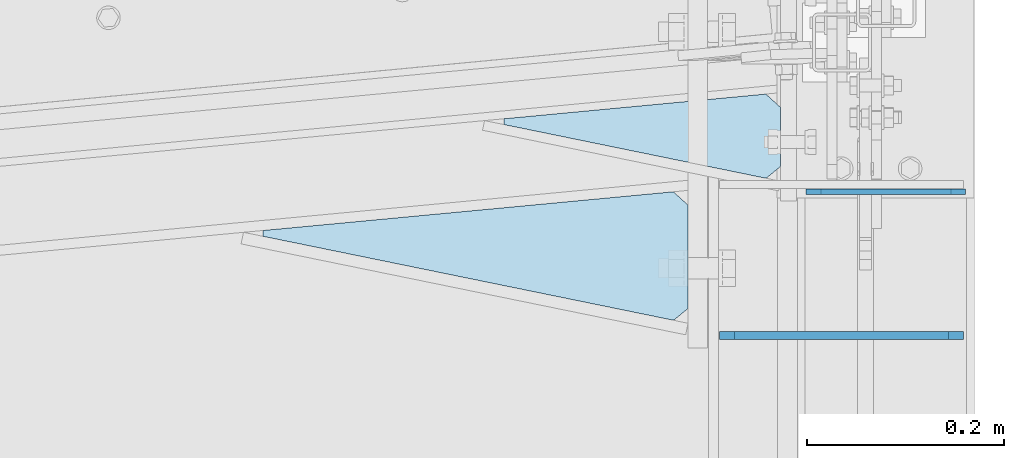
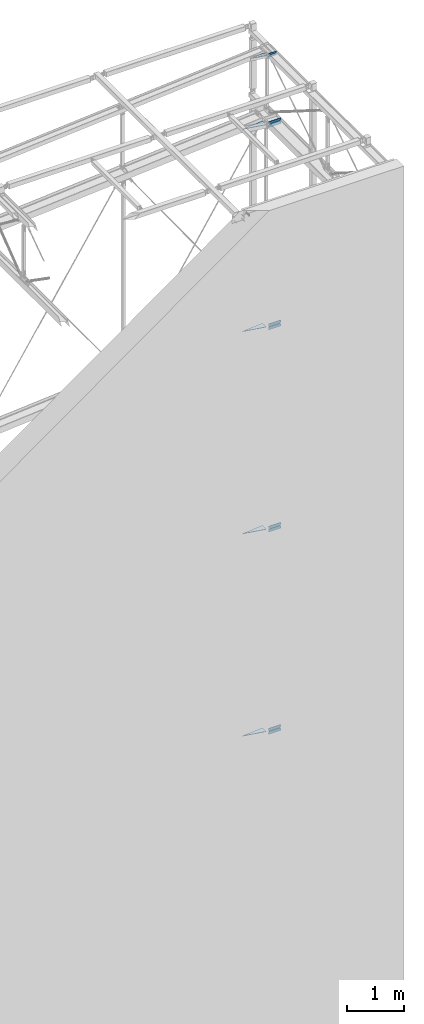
# One storey, part 194 of 271: 15 plates, 10 elements without a shape of their own.
"""IFC2X3 building model written with IfcOpenShell, lengths in millimetres."""

from ifc_helpers import new_model, si_unit, frame, origin_with_axes, place, context, subcontext, project, spatial, polyline, outline, extrude, material, type_object, element, aggregate, save


model = new_model("IFC2X3")

# Units and contexts
model_context = context("Model", 3, precision=1e-05, world=origin_with_axes())
body_context = subcontext(model_context, "Body", "Model", "MODEL_VIEW")
ifc_project = project(units=[si_unit("LENGTHUNIT", "METRE", prefix="MILLI"), si_unit("AREAUNIT", "SQUARE_METRE"), si_unit("VOLUMEUNIT", "CUBIC_METRE"), si_unit("MASSUNIT", "GRAM", prefix="KILO"), si_unit("TIMEUNIT", "SECOND"), si_unit("PLANEANGLEUNIT", "RADIAN"), si_unit("SOLIDANGLEUNIT", "STERADIAN"), si_unit("THERMODYNAMICTEMPERATUREUNIT", "DEGREE_CELSIUS"), si_unit("LUMINOUSINTENSITYUNIT", "LUMEN")], contexts=[model_context])

# Site, building, storey
site_placement = place(None, origin_with_axes())
site = spatial("IfcSite", under=ifc_project, at=site_placement, Name="Undefined", CompositionType="ELEMENT")
building_placement = place(site_placement, origin_with_axes())
building = spatial("IfcBuilding", under=site, at=building_placement, Name="Undefined", CompositionType="ELEMENT")
storey_placement = place(building_placement, origin_with_axes())
storey = spatial("IfcBuildingStorey", under=building, at=storey_placement, Name="Undefined", CompositionType="ELEMENT", Elevation=0.0)

# Assembly, plates
assembly_1_placement = place(storey_placement, origin_with_axes())
assembly_1 = element("IfcElementAssembly", 1, at=assembly_1_placement, inside=storey, AssemblyPlace="NOTDEFINED", PredefinedType="RIGID_FRAME")
ifc_material = material(Name="STEEL/S355JR")
plate_type_1 = type_object("IfcPlateType", Name="BL8*60", PredefinedType="NOTDEFINED")
plate_1_placement = place(assembly_1_placement, frame((12449.5756869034, 3994.32774429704, 5621.04999995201), z_axis=(0.0, 1.0, 0.0), x_axis=(0.0, 0.0, 1.0)))
plate_1 = element("IfcPlate", 2, at=plate_1_placement, type_object=plate_type_1, material=ifc_material, Name="BLACHA", ObjectType="BL8*60", context=body_context, shape_type="SweptSolid", body=[
    extrude(outline(polyline([(0.0, 0.0), (45.0, 0.0), (60.0, 15.0), (60.0, 232.600006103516), (45.0, 247.600006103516), (0.0, 247.600006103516), (0.0, 0.0)])), frame((0.0, 0.0, -4.0), z_axis=(0.0, 0.0, 1.0), x_axis=(1.0, 0.0, 0.0)), (0.0, 0.0, 1.0), 8.0),
])
plate_2_placement = place(assembly_1_placement, frame((12449.5756869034, 3994.32774429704, 5747.64999985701), z_axis=(0.0, -1.0, 0.0), x_axis=(0.0, 0.0, -1.0)))
plate_2 = element("IfcPlate", 3, at=plate_2_placement, type_object=plate_type_1, material=ifc_material, Name="BLACHA", ObjectType="BL8*60", context=body_context, shape_type="SweptSolid", body=[
    extrude(outline(polyline([(0.0, 0.0), (45.0, 0.0), (60.0, 15.0), (60.0, 232.600006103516), (45.0, 247.600006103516), (0.0, 247.600006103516), (0.0, 0.0)])), frame((0.0, 0.0, -4.0), z_axis=(0.0, 0.0, 1.0), x_axis=(1.0, 0.0, 0.0)), (0.0, 0.0, 1.0), 8.0),
])
aggregate(assembly_1, [plate_1, plate_2])

assembly_2_placement = place(storey_placement, origin_with_axes())
assembly_2 = element("IfcElementAssembly", 4, at=assembly_2_placement, inside=storey, AssemblyPlace="NOTDEFINED", PredefinedType="RIGID_FRAME")
plate_3_placement = place(assembly_2_placement, frame((12449.5756869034, 3994.32774429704, 9941.04999995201), z_axis=(0.0, 1.0, 0.0), x_axis=(0.0, 0.0, 1.0)))
plate_3 = element("IfcPlate", 5, at=plate_3_placement, type_object=plate_type_1, material=ifc_material, Name="BLACHA", ObjectType="BL8*60", context=body_context, shape_type="SweptSolid", body=[
    extrude(outline(polyline([(0.0, 0.0), (45.0, 0.0), (60.0, 15.0), (60.0, 232.600006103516), (45.0, 247.600006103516), (0.0, 247.600006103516), (0.0, 0.0)])), frame((0.0, 0.0, -4.0), z_axis=(0.0, 0.0, 1.0), x_axis=(1.0, 0.0, 0.0)), (0.0, 0.0, 1.0), 8.0),
])
plate_4_placement = place(assembly_2_placement, frame((12449.5756869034, 3994.32774429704, 10067.649999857), z_axis=(0.0, -1.0, 0.0), x_axis=(0.0, 0.0, -1.0)))
plate_4 = element("IfcPlate", 6, at=plate_4_placement, type_object=plate_type_1, material=ifc_material, Name="BLACHA", ObjectType="BL8*60", context=body_context, shape_type="SweptSolid", body=[
    extrude(outline(polyline([(0.0, 0.0), (45.0, 0.0), (60.0, 15.0), (60.0, 232.600006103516), (45.0, 247.600006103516), (0.0, 247.600006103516), (0.0, 0.0)])), frame((0.0, 0.0, -4.0), z_axis=(0.0, 0.0, 1.0), x_axis=(1.0, 0.0, 0.0)), (0.0, 0.0, 1.0), 8.0),
])
aggregate(assembly_2, [plate_3, plate_4])

assembly_3_placement = place(storey_placement, origin_with_axes())
assembly_3 = element("IfcElementAssembly", 7, at=assembly_3_placement, inside=storey, AssemblyPlace="NOTDEFINED", PredefinedType="RIGID_FRAME")
plate_5_placement = place(assembly_3_placement, frame((12449.5756869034, 3994.32774429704, 14261.049999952), z_axis=(0.0, 1.0, 0.0), x_axis=(0.0, 0.0, 1.0)))
plate_5 = element("IfcPlate", 8, at=plate_5_placement, type_object=plate_type_1, material=ifc_material, Name="BLACHA", ObjectType="BL8*60", context=body_context, shape_type="SweptSolid", body=[
    extrude(outline(polyline([(0.0, 0.0), (45.0, 0.0), (60.0, 15.0), (60.0, 232.600006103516), (45.0, 247.600006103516), (0.0, 247.600006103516), (0.0, 0.0)])), frame((0.0, 0.0, -4.0), z_axis=(0.0, 0.0, 1.0), x_axis=(1.0, 0.0, 0.0)), (0.0, 0.0, 1.0), 8.0),
])
plate_6_placement = place(assembly_3_placement, frame((12449.5756869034, 3994.32774429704, 14387.649999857), z_axis=(0.0, -1.0, 0.0), x_axis=(0.0, 0.0, -1.0)))
plate_6 = element("IfcPlate", 9, at=plate_6_placement, type_object=plate_type_1, material=ifc_material, Name="BLACHA", ObjectType="BL8*60", context=body_context, shape_type="SweptSolid", body=[
    extrude(outline(polyline([(0.0, 0.0), (45.0, 0.0), (60.0, 15.0), (60.0, 232.600006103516), (45.0, 247.600006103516), (0.0, 247.600006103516), (0.0, 0.0)])), frame((0.0, 0.0, -4.0), z_axis=(0.0, 0.0, 1.0), x_axis=(1.0, 0.0, 0.0)), (0.0, 0.0, 1.0), 8.0),
])
aggregate(assembly_3, [plate_5, plate_6])

assembly_4_placement = place(storey_placement, origin_with_axes())
assembly_4 = element("IfcElementAssembly", 10, at=assembly_4_placement, inside=storey, AssemblyPlace="NOTDEFINED", PredefinedType="RIGID_FRAME")
plate_7_placement = place(assembly_4_placement, frame((12449.5756869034, 3994.32774429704, 18581.049999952), z_axis=(0.0, 1.0, 0.0), x_axis=(0.0, 0.0, 1.0)))
plate_7 = element("IfcPlate", 11, at=plate_7_placement, type_object=plate_type_1, material=ifc_material, Name="BLACHA", ObjectType="BL8*60", context=body_context, shape_type="SweptSolid", body=[
    extrude(outline(polyline([(0.0, 0.0), (45.0, 0.0), (60.0, 15.0), (60.0, 232.600006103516), (45.0, 247.600006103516), (0.0, 247.600006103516), (0.0, 0.0)])), frame((0.0, 0.0, -4.0), z_axis=(0.0, 0.0, 1.0), x_axis=(1.0, 0.0, 0.0)), (0.0, 0.0, 1.0), 8.0),
])
plate_8_placement = place(assembly_4_placement, frame((12449.5756869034, 3994.32774429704, 18707.649999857), z_axis=(0.0, -1.0, 0.0), x_axis=(0.0, 0.0, -1.0)))
plate_8 = element("IfcPlate", 12, at=plate_8_placement, type_object=plate_type_1, material=ifc_material, Name="BLACHA", ObjectType="BL8*60", context=body_context, shape_type="SweptSolid", body=[
    extrude(outline(polyline([(0.0, 0.0), (45.0, 0.0), (60.0, 15.0), (60.0, 232.600006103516), (45.0, 247.600006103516), (0.0, 247.600006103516), (0.0, 0.0)])), frame((0.0, 0.0, -4.0), z_axis=(0.0, 0.0, 1.0), x_axis=(1.0, 0.0, 0.0)), (0.0, 0.0, 1.0), 8.0),
])
aggregate(assembly_4, [plate_7, plate_8])

assembly_5_placement = place(storey_placement, origin_with_axes())
assembly_5 = element("IfcElementAssembly", 13, at=assembly_5_placement, inside=storey, AssemblyPlace="NOTDEFINED", PredefinedType="RIGID_FRAME")
plate_type_2 = type_object("IfcPlateType", Name="BL6*40", PredefinedType="NOTDEFINED")
plate_9_placement = place(assembly_5_placement, frame((12537.3756870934, 4140.44841139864, 19961.699999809), z_axis=(0.0, 1.0, 0.0), x_axis=(0.0, 0.0, 1.0)))
plate_9 = element("IfcPlate", 14, at=plate_9_placement, type_object=plate_type_2, material=ifc_material, Name="BLACHA", ObjectType="BL6*40", context=body_context, shape_type="SweptSolid", body=[
    extrude(outline(polyline([(0.0, 0.0), (25.0, -1.13686837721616e-13), (40.0, 14.9999999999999), (40.0, 147.0), (25.0, 162.0), (0.0, 162.0), (0.0, 0.0)])), frame((0.0, 0.0, -3.0), z_axis=(0.0, 0.0, 1.0), x_axis=(1.0, 0.0, 0.0)), (0.0, 0.0, 1.0), 6.0),
])
plate_10_placement = place(assembly_5_placement, frame((12537.3756870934, 4140.44841139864, 20047.0), z_axis=(0.0, -1.0, 0.0), x_axis=(0.0, 0.0, -1.0)))
plate_10 = element("IfcPlate", 15, at=plate_10_placement, type_object=plate_type_2, material=ifc_material, Name="BLACHA", ObjectType="BL6*40", context=body_context, shape_type="SweptSolid", body=[
    extrude(outline(polyline([(0.0, 0.0), (25.0, -1.13686837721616e-13), (40.0, 14.9999999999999), (40.0, 147.0), (25.0, 162.0), (0.0, 162.0), (0.0, 0.0)])), frame((0.0, 0.0, -3.0), z_axis=(0.0, 0.0, 1.0), x_axis=(1.0, 0.0, 0.0)), (0.0, 0.0, 1.0), 6.0),
])
aggregate(assembly_5, [plate_9, plate_10])

# Assembly, plate
assembly_6_placement = place(storey_placement, origin_with_axes())
assembly_6 = element("IfcElementAssembly", 16, at=assembly_6_placement, inside=storey, AssemblyPlace="NOTDEFINED", PredefinedType="RIGID_FRAME")
plate_type_3 = type_object("IfcPlateType", Name="BL6*84", PredefinedType="NOTDEFINED")
plate_11_placement = place(assembly_6_placement, frame((12511.3756870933, 4151.13968975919, 20004.3499999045), z_axis=(0.0, 0.0, 1.0), x_axis=(0.0, 1.0, 0.0)))
plate_11 = element("IfcPlate", 17, at=plate_11_placement, type_object=plate_type_3, material=ifc_material, Name="BLACHA", ObjectType="BL6*84", context=body_context, shape_type="SweptSolid", body=[
    extrude(outline(polyline([(3.01110479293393, 14.6946673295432), (15.0, -1.59872115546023e-14), (75.0, -7.27595761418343e-12), (88.5911610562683, 14.9336925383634), (63.5057292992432, 280.839264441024), (57.612470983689, 281.157964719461), (3.01110479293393, 14.6946673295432)])), frame((0.0, 0.0, -3.0), z_axis=(0.0, 0.0, 1.0), x_axis=(1.0, 0.0, 0.0)), (0.0, 0.0, 1.0), 6.0),
])
aggregate(assembly_6, [plate_11])

assembly_7_placement = place(storey_placement, origin_with_axes())
assembly_7 = element("IfcElementAssembly", 18, at=assembly_7_placement, inside=storey, AssemblyPlace="NOTDEFINED", PredefinedType="RIGID_FRAME")
plate_type_4 = type_object("IfcPlateType", Name="BL8*128", PredefinedType="NOTDEFINED")
plate_12_placement = place(assembly_7_placement, frame((12417.3756870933, 4006.87215395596, 5684.34999990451), z_axis=(0.0, 0.0, 1.0), x_axis=(0.0, 1.0, 0.0)))
plate_12 = element("IfcPlate", 19, at=plate_12_placement, type_object=plate_type_4, material=ifc_material, Name="BLACHA", ObjectType="BL8*128", context=body_context, shape_type="SweptSolid", body=[
    extrude(outline(polyline([(3.00624160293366, 14.6956630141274), (15.0, -1.59872115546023e-14), (120.0, 0.0), (133.591161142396, 14.9336925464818), (94.2702746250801, 431.735107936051), (88.3835006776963, 432.052480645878), (3.00624160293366, 14.6956630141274)])), frame((0.0, 0.0, -4.0), z_axis=(0.0, 0.0, 1.0), x_axis=(1.0, 0.0, 0.0)), (0.0, 0.0, 1.0), 8.0),
])
aggregate(assembly_7, [plate_12])

assembly_8_placement = place(storey_placement, origin_with_axes())
assembly_8 = element("IfcElementAssembly", 20, at=assembly_8_placement, inside=storey, AssemblyPlace="NOTDEFINED", PredefinedType="RIGID_FRAME")
plate_13_placement = place(assembly_8_placement, frame((12417.3756870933, 4006.87215395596, 10004.3499999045), z_axis=(0.0, 0.0, 1.0), x_axis=(0.0, 1.0, 0.0)))
plate_13 = element("IfcPlate", 21, at=plate_13_placement, type_object=plate_type_4, material=ifc_material, Name="BLACHA", ObjectType="BL8*128", context=body_context, shape_type="SweptSolid", body=[
    extrude(outline(polyline([(3.00624160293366, 14.6956630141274), (15.0, -1.59872115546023e-14), (120.0, 0.0), (133.591161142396, 14.9336925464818), (94.2702746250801, 431.735107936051), (88.3835006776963, 432.052480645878), (3.00624160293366, 14.6956630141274)])), frame((0.0, 0.0, -4.0), z_axis=(0.0, 0.0, 1.0), x_axis=(1.0, 0.0, 0.0)), (0.0, 0.0, 1.0), 8.0),
])
aggregate(assembly_8, [plate_13])

assembly_9_placement = place(storey_placement, origin_with_axes())
assembly_9 = element("IfcElementAssembly", 22, at=assembly_9_placement, inside=storey, AssemblyPlace="NOTDEFINED", PredefinedType="RIGID_FRAME")
plate_14_placement = place(assembly_9_placement, frame((12417.3756870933, 4006.87215395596, 14324.3499999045), z_axis=(0.0, 0.0, 1.0), x_axis=(0.0, 1.0, 0.0)))
plate_14 = element("IfcPlate", 23, at=plate_14_placement, type_object=plate_type_4, material=ifc_material, Name="BLACHA", ObjectType="BL8*128", context=body_context, shape_type="SweptSolid", body=[
    extrude(outline(polyline([(3.00624160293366, 14.6956630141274), (15.0, -1.59872115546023e-14), (120.0, 0.0), (133.591161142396, 14.9336925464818), (94.2702746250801, 431.735107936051), (88.3835006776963, 432.052480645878), (3.00624160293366, 14.6956630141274)])), frame((0.0, 0.0, -4.0), z_axis=(0.0, 0.0, 1.0), x_axis=(1.0, 0.0, 0.0)), (0.0, 0.0, 1.0), 8.0),
])
aggregate(assembly_9, [plate_14])

assembly_10_placement = place(storey_placement, origin_with_axes())
assembly_10 = element("IfcElementAssembly", 24, at=assembly_10_placement, inside=storey, AssemblyPlace="NOTDEFINED", PredefinedType="RIGID_FRAME")
plate_15_placement = place(assembly_10_placement, frame((12417.3756870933, 4006.87215395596, 18644.3499999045), z_axis=(0.0, 0.0, 1.0), x_axis=(0.0, 1.0, 0.0)))
plate_15 = element("IfcPlate", 25, at=plate_15_placement, type_object=plate_type_4, material=ifc_material, Name="BLACHA", ObjectType="BL8*128", context=body_context, shape_type="SweptSolid", body=[
    extrude(outline(polyline([(3.00624160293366, 14.6956630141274), (15.0, -1.59872115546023e-14), (120.0, 0.0), (133.591161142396, 14.9336925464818), (94.2702746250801, 431.735107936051), (88.3835006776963, 432.052480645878), (3.00624160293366, 14.6956630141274)])), frame((0.0, 0.0, -4.0), z_axis=(0.0, 0.0, 1.0), x_axis=(1.0, 0.0, 0.0)), (0.0, 0.0, 1.0), 8.0),
])
aggregate(assembly_10, [plate_15])

save(model, "model.ifc")
